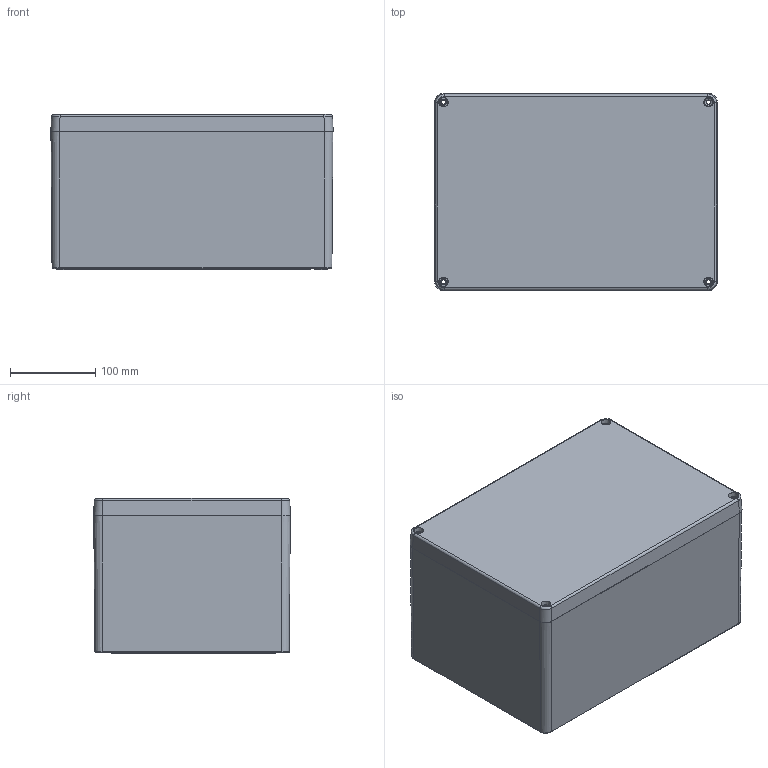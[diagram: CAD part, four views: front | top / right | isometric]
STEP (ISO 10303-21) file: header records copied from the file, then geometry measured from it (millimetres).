
FILE_DESCRIPTION (( 'STEP AP203' ), '1' );
FILE_NAME ('ALU ASSY 330230180.STEP', '2024-08-27T09:42:02', ( '' ), ( '' ), 'SwSTEP 2.0', 'SolidWorks 2018', '' );
FILE_SCHEMA (( 'CONFIG_CONTROL_DESIGN' ));
Length unit declared in the file: millimetre
Products named in the file (3): ALU BASE 330230180; ALU LID 330230180; ALU ASSY 330230180
Assembly tree (2 placements, depth 2):
  ALU ASSY 330230180
    ALU BASE 330230180
    ALU LID 330230180
Bounding box: 330.47 x 230.52 x 181.35 mm (x, y, z)
Volume: 1999907 mm3; surface area: 726227.1 mm2
Topology: 2 solids, 2 shells, 1187 faces, 3052 edges, 1947 vertices
Faces by surface type: bspline 445, plane 433, cylinder 219, cone 90
Entity records: 51847 total; most frequent: CARTESIAN_POINT 25709, ORIENTED_EDGE 6064, DIRECTION 4114, EDGE_CURVE 3032, VERTEX_POINT 1947, LINE 1542, VECTOR 1542, EDGE_LOOP 1309
